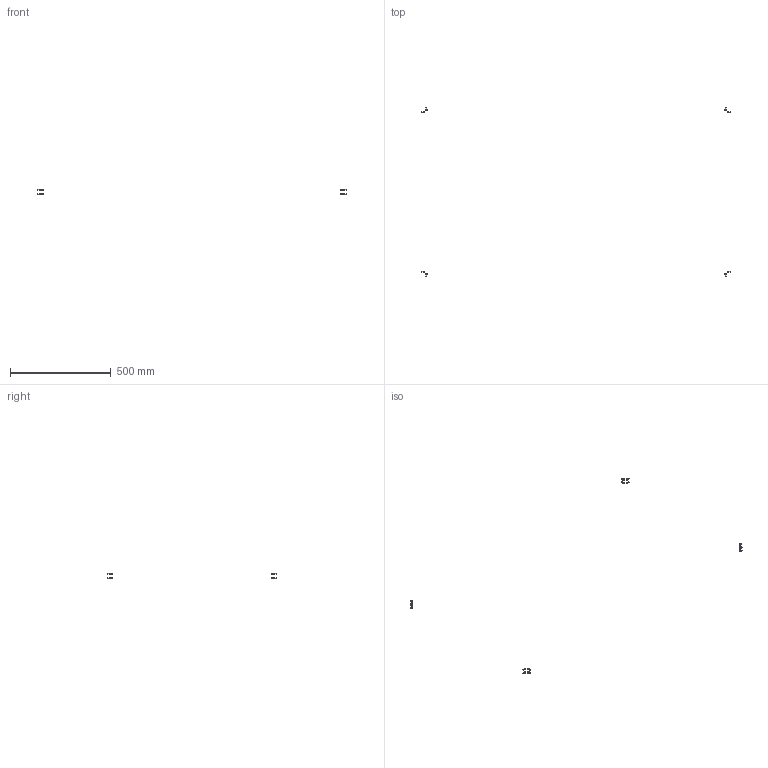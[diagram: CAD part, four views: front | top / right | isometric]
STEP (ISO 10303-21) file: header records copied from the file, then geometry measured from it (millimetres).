
FILE_DESCRIPTION(/* description */ (''),/* implementation_level */ '2;1');
FILE_NAME(/* name */ '4.frame-door#4.1#CB5-10',/* time_stamp */ '2014-12-01T20:12:26+01:00',/* author */ (''),/* organization */ (''),/* preprocessor_version */ 'ST-DEVELOPER v14',/* originating_system */ '',/* authorisation */ '');
FILE_SCHEMA (('AUTOMOTIVE_DESIGN'));
Length unit declared in the file: millimetre
Products named in the file (2): Document; screw DIN912-like, M5x10
Assembly tree (8 placements, depth 2):
  Document
    screw DIN912-like, M5x10  x8
Bounding box: 1535 x 841 x 28.5 mm (x, y, z)
Volume: 7013.4 mm3; surface area: 6820.8 mm2
Topology: 16 solids, 16 shells, 400 faces, 896 edges, 528 vertices
Faces by surface type: plane 240, bspline 160
Entity records: 12309 total; most frequent: CARTESIAN_POINT 5663, B_SPLINE_CURVE_WITH_KNOTS 1134, ORIENTED_EDGE 972, PCURVE 972, DEFINITIONAL_REPRESENTATION 972, SURFACE_CURVE 486, EDGE_CURVE 486, VERTEX_POINT 297
